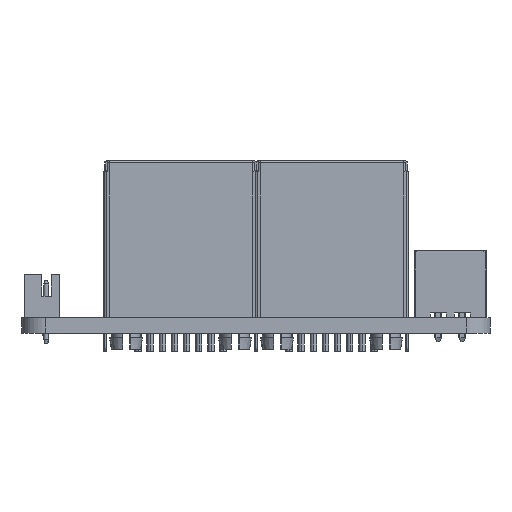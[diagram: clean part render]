
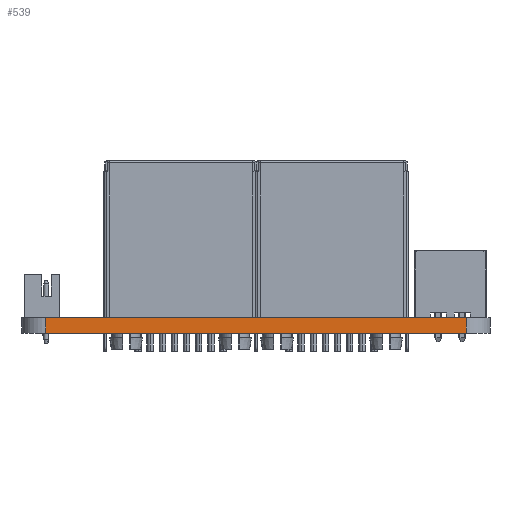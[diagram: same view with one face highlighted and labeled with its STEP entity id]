
A CAD part, front view. The second image highlights one B-rep face of the part: STEP entity #539.
In plain terms, the highlighted planar face has unit normal (0, -1, 0).
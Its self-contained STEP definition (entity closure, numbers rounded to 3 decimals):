
#165 = PLANE('',#166);
#166 = AXIS2_PLACEMENT_3D('',#167,#168,#169);
#167 = CARTESIAN_POINT('',(24.5,36.5,
    1.628));
#168 = DIRECTION('',(-0.,-0.,-1.));
#169 = DIRECTION('',(-1.,0.,0.));
#220 = PLANE('',#221);
#221 = AXIS2_PLACEMENT_3D('',#222,#223,#224);
#222 = CARTESIAN_POINT('',(24.5,36.5,0.));
#223 = DIRECTION('',(-0.,-0.,-1.));
#224 = DIRECTION('',(-1.,0.,0.));
#429 = CYLINDRICAL_SURFACE('',#430,2.487);
#430 = AXIS2_PLACEMENT_3D('',#431,#432,#433);
#431 = CARTESIAN_POINT('',(46.5,2.5,0.));
#432 = DIRECTION('',(0.,0.,-1.));
#433 = DIRECTION('',(1.,0.,0.));
#467 = VERTEX_POINT('',#468);
#468 = CARTESIAN_POINT('',(46.5,0.013,
    1.628));
#490 = EDGE_CURVE('',#491,#467,#493,.T.);
#491 = VERTEX_POINT('',#492);
#492 = CARTESIAN_POINT('',(46.5,0.013,0.));
#493 = SURFACE_CURVE('',#494,(#498,#505),.PCURVE_S1.);
#494 = LINE('',#495,#496);
#495 = CARTESIAN_POINT('',(46.5,0.013,0.));
#496 = VECTOR('',#497,1.);
#497 = DIRECTION('',(0.,0.,1.));
#498 = PCURVE('',#429,#499);
#499 = DEFINITIONAL_REPRESENTATION('',(#500),#504);
#500 = LINE('',#501,#502);
#501 = CARTESIAN_POINT('',(1.571,0.));
#502 = VECTOR('',#503,1.);
#503 = DIRECTION('',(0.,-1.));
#504 = ( GEOMETRIC_REPRESENTATION_CONTEXT(2) 
PARAMETRIC_REPRESENTATION_CONTEXT() REPRESENTATION_CONTEXT('2D SPACE',''
  ) );
#505 = PCURVE('',#506,#511);
#506 = PLANE('',#507);
#507 = AXIS2_PLACEMENT_3D('',#508,#509,#510);
#508 = CARTESIAN_POINT('',(46.5,0.013,0.));
#509 = DIRECTION('',(0.,-1.,0.));
#510 = DIRECTION('',(-1.,0.,0.));
#511 = DEFINITIONAL_REPRESENTATION('',(#512),#516);
#512 = LINE('',#513,#514);
#513 = CARTESIAN_POINT('',(0.,0.));
#514 = VECTOR('',#515,1.);
#515 = DIRECTION('',(0.,-1.));
#516 = ( GEOMETRIC_REPRESENTATION_CONTEXT(2) 
PARAMETRIC_REPRESENTATION_CONTEXT() REPRESENTATION_CONTEXT('2D SPACE',''
  ) );
#539 = ADVANCED_FACE('',(#540),#506,.T.);
#540 = FACE_BOUND('',#541,.T.);
#541 = EDGE_LOOP('',(#542,#543,#566,#594));
#542 = ORIENTED_EDGE('',*,*,#490,.T.);
#543 = ORIENTED_EDGE('',*,*,#544,.T.);
#544 = EDGE_CURVE('',#467,#545,#547,.T.);
#545 = VERTEX_POINT('',#546);
#546 = CARTESIAN_POINT('',(2.5,0.013,
    1.628));
#547 = SURFACE_CURVE('',#548,(#552,#559),.PCURVE_S1.);
#548 = LINE('',#549,#550);
#549 = CARTESIAN_POINT('',(46.5,0.013,
    1.628));
#550 = VECTOR('',#551,1.);
#551 = DIRECTION('',(-1.,0.,0.));
#552 = PCURVE('',#506,#553);
#553 = DEFINITIONAL_REPRESENTATION('',(#554),#558);
#554 = LINE('',#555,#556);
#555 = CARTESIAN_POINT('',(0.,-1.628));
#556 = VECTOR('',#557,1.);
#557 = DIRECTION('',(1.,0.));
#558 = ( GEOMETRIC_REPRESENTATION_CONTEXT(2) 
PARAMETRIC_REPRESENTATION_CONTEXT() REPRESENTATION_CONTEXT('2D SPACE',''
  ) );
#559 = PCURVE('',#165,#560);
#560 = DEFINITIONAL_REPRESENTATION('',(#561),#565);
#561 = LINE('',#562,#563);
#562 = CARTESIAN_POINT('',(-22.,-36.487));
#563 = VECTOR('',#564,1.);
#564 = DIRECTION('',(1.,0.));
#565 = ( GEOMETRIC_REPRESENTATION_CONTEXT(2) 
PARAMETRIC_REPRESENTATION_CONTEXT() REPRESENTATION_CONTEXT('2D SPACE',''
  ) );
#566 = ORIENTED_EDGE('',*,*,#567,.F.);
#567 = EDGE_CURVE('',#568,#545,#570,.T.);
#568 = VERTEX_POINT('',#569);
#569 = CARTESIAN_POINT('',(2.5,0.013,0.));
#570 = SURFACE_CURVE('',#571,(#575,#582),.PCURVE_S1.);
#571 = LINE('',#572,#573);
#572 = CARTESIAN_POINT('',(2.5,0.013,0.));
#573 = VECTOR('',#574,1.);
#574 = DIRECTION('',(0.,0.,1.));
#575 = PCURVE('',#506,#576);
#576 = DEFINITIONAL_REPRESENTATION('',(#577),#581);
#577 = LINE('',#578,#579);
#578 = CARTESIAN_POINT('',(44.,0.));
#579 = VECTOR('',#580,1.);
#580 = DIRECTION('',(0.,-1.));
#581 = ( GEOMETRIC_REPRESENTATION_CONTEXT(2) 
PARAMETRIC_REPRESENTATION_CONTEXT() REPRESENTATION_CONTEXT('2D SPACE',''
  ) );
#582 = PCURVE('',#583,#588);
#583 = CYLINDRICAL_SURFACE('',#584,2.487);
#584 = AXIS2_PLACEMENT_3D('',#585,#586,#587);
#585 = CARTESIAN_POINT('',(2.5,2.5,0.));
#586 = DIRECTION('',(0.,0.,-1.));
#587 = DIRECTION('',(0.,-1.,-0.));
#588 = DEFINITIONAL_REPRESENTATION('',(#589),#593);
#589 = LINE('',#590,#591);
#590 = CARTESIAN_POINT('',(0.,0.));
#591 = VECTOR('',#592,1.);
#592 = DIRECTION('',(0.,-1.));
#593 = ( GEOMETRIC_REPRESENTATION_CONTEXT(2) 
PARAMETRIC_REPRESENTATION_CONTEXT() REPRESENTATION_CONTEXT('2D SPACE',''
  ) );
#594 = ORIENTED_EDGE('',*,*,#595,.F.);
#595 = EDGE_CURVE('',#491,#568,#596,.T.);
#596 = SURFACE_CURVE('',#597,(#601,#608),.PCURVE_S1.);
#597 = LINE('',#598,#599);
#598 = CARTESIAN_POINT('',(46.5,0.013,0.));
#599 = VECTOR('',#600,1.);
#600 = DIRECTION('',(-1.,0.,0.));
#601 = PCURVE('',#506,#602);
#602 = DEFINITIONAL_REPRESENTATION('',(#603),#607);
#603 = LINE('',#604,#605);
#604 = CARTESIAN_POINT('',(0.,0.));
#605 = VECTOR('',#606,1.);
#606 = DIRECTION('',(1.,0.));
#607 = ( GEOMETRIC_REPRESENTATION_CONTEXT(2) 
PARAMETRIC_REPRESENTATION_CONTEXT() REPRESENTATION_CONTEXT('2D SPACE',''
  ) );
#608 = PCURVE('',#220,#609);
#609 = DEFINITIONAL_REPRESENTATION('',(#610),#614);
#610 = LINE('',#611,#612);
#611 = CARTESIAN_POINT('',(-22.,-36.487));
#612 = VECTOR('',#613,1.);
#613 = DIRECTION('',(1.,0.));
#614 = ( GEOMETRIC_REPRESENTATION_CONTEXT(2) 
PARAMETRIC_REPRESENTATION_CONTEXT() REPRESENTATION_CONTEXT('2D SPACE',''
  ) );
